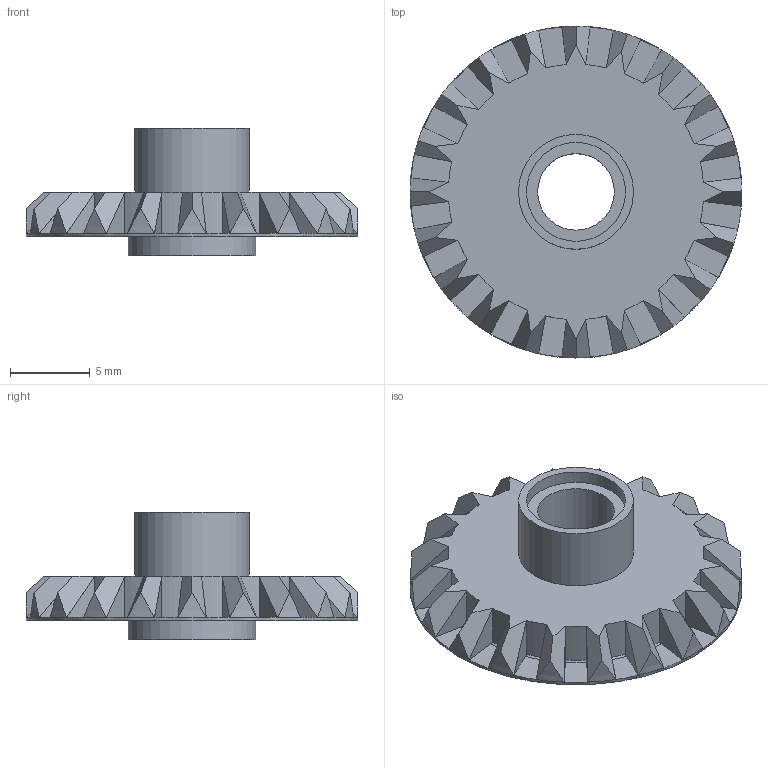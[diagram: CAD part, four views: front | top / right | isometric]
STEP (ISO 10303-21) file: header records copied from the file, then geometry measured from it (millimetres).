
FILE_DESCRIPTION(/* description */ ('Unknown'),/* implementation_level */ '2;1');
FILE_NAME(/* name */ 'ClGray_4558690_JC',/* time_stamp */ '2025-07-21T23:56:56+02:00',/* author */ ('Unknown'),/* organization */ ('Unknown'),/* preprocessor_version */ 'ST-DEVELOPER v19.4',/* originating_system */ 'Solid Edge',/* authorisation */ 'Unknown');
FILE_SCHEMA (('AUTOMOTIVE_DESIGN {1 0 10303 214 3 1 1}'));
Length unit declared in the file: millimetre
Products named in the file (1): ClGray_4558690_JC
Bounding box: 20.8 x 20.8 x 8 mm (x, y, z)
Volume: 703.4 mm3; surface area: 1221 mm2
Topology: 1 solids, 1 shells, 194 faces, 420 edges, 233 vertices
Faces by surface type: plane 127, cylinder 66, cone 1
Full cylindrical faces by diameter (mm): 4.8 x1, 6.2 x2, 7.2 x1, 8 x1, 20.8 x1
Entity records: 5168 total; most frequent: DIRECTION 996, CARTESIAN_POINT 841, ORIENTED_EDGE 826, EDGE_CURVE 413, AXIS2_PLACEMENT_3D 388, VERTEX_POINT 233, LINE 220, VECTOR 220
